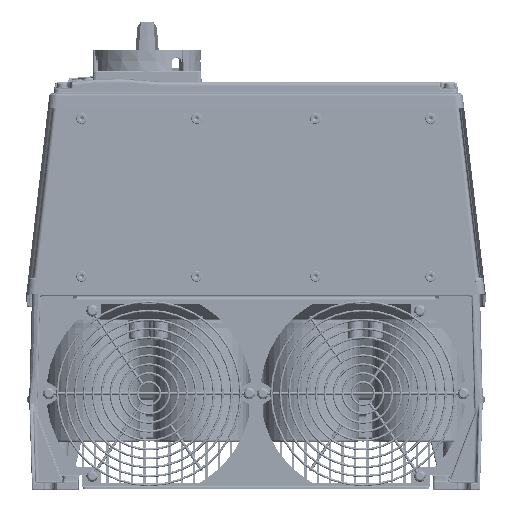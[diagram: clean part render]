
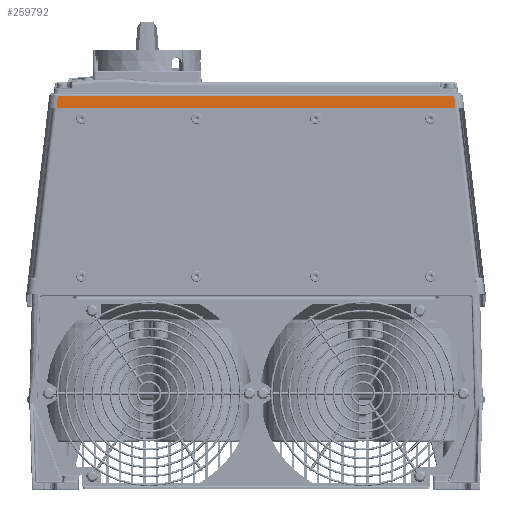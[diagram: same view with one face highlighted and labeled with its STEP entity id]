
A CAD part, front view. The second image highlights one B-rep face of the part: STEP entity #259792.
In plain terms, the highlighted planar face has unit normal (0, -0.999, 0.035).
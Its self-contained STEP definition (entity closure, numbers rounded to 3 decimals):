
#5602=DIRECTION('',(1.,0.,0.));
#5603=VECTOR('',#5602,322.508);
#5604=CARTESIAN_POINT('',(-161.254,-376.512,148.5));
#5605=LINE('',#5604,#5603);
#68109=DIRECTION('',(-1.,0.,0.));
#68110=VECTOR('',#68109,320.133);
#68111=CARTESIAN_POINT('',(160.066,-376.154,
158.763));
#68112=LINE('',#68111,#68110);
#68142=DIRECTION('',(0.115,-0.035,-0.993));
#68143=VECTOR('',#68142,10.338);
#68144=CARTESIAN_POINT('',(160.066,-376.154,
158.763));
#68145=LINE('',#68144,#68143);
#68146=DIRECTION('',(0.115,0.035,0.993));
#68147=VECTOR('',#68146,10.338);
#68148=CARTESIAN_POINT('',(-161.254,-376.512,148.5));
#68149=LINE('',#68148,#68147);
#68150=CARTESIAN_POINT('',(-161.254,-376.512,148.5));
#104697=VERTEX_POINT('',#68150);
#104698=CARTESIAN_POINT('',(161.254,-376.512,148.5));
#104699=VERTEX_POINT('',#104698);
#104775=CARTESIAN_POINT('',(-160.066,-376.154,
158.763));
#104776=VERTEX_POINT('',#104775);
#104777=CARTESIAN_POINT('',(160.066,-376.154,
158.763));
#104778=VERTEX_POINT('',#104777);
#259780=CARTESIAN_POINT('',(169.512,-376.512,148.5));
#259781=DIRECTION('',(0.,-0.999,0.035));
#259782=DIRECTION('',(-1.,0.,0.));
#259783=AXIS2_PLACEMENT_3D('',#259780,#259781,#259782);
#259784=PLANE('',#259783);
#259785=ORIENTED_EDGE('',*,*,#259612,.F.);
#259786=ORIENTED_EDGE('',*,*,#259775,.T.);
#259787=ORIENTED_EDGE('',*,*,#125476,.F.);
#259789=ORIENTED_EDGE('',*,*,#259788,.T.);
#259790=EDGE_LOOP('',(#259785,#259786,#259787,#259789));
#259791=FACE_OUTER_BOUND('',#259790,.F.);
#125476=EDGE_CURVE('',#104697,#104699,#5605,.T.);
#259612=EDGE_CURVE('',#104778,#104776,#68112,.T.);
#259775=EDGE_CURVE('',#104778,#104699,#68145,.T.);
#259788=EDGE_CURVE('',#104697,#104776,#68149,.T.);
#259792=ADVANCED_FACE('',(#259791),#259784,.T.);
